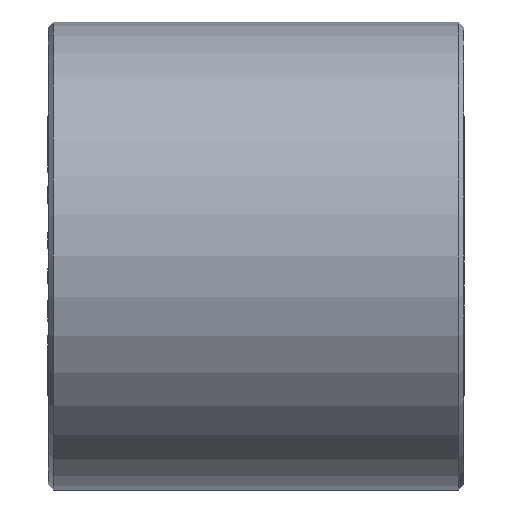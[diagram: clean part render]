
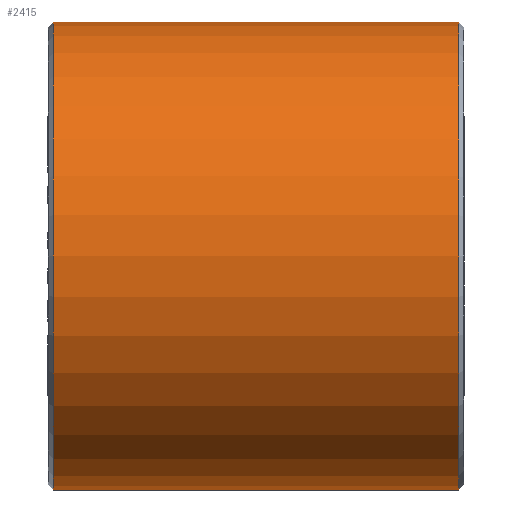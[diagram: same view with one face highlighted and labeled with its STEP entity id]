
A CAD part, front view. The second image highlights one B-rep face of the part: STEP entity #2415.
In plain terms, the highlighted cylindrical face has radius 22.5 mm (diameter 45 mm), a partial arc.
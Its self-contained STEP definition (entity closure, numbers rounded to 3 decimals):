
#86=DIRECTION('',(1.,0.,0.));
#87=VECTOR('',#86,39.);
#88=CARTESIAN_POINT('',(-19.5,0.,
-22.5));
#89=LINE('',#88,#87);
#133=CARTESIAN_POINT('',(19.5,0.,0.));
#134=DIRECTION('',(1.,0.,0.));
#135=DIRECTION('',(0.,0.,1.));
#136=AXIS2_PLACEMENT_3D('',#133,#134,#135);
#138=CARTESIAN_POINT('',(-19.5,0.,0.));
#139=DIRECTION('',(-1.,0.,0.));
#140=DIRECTION('',(0.,0.,-1.));
#141=AXIS2_PLACEMENT_3D('',#138,#139,#140);
#143=DIRECTION('',(1.,0.,0.));
#144=VECTOR('',#143,39.);
#145=CARTESIAN_POINT('',(-19.5,0.,
22.5));
#146=LINE('',#145,#144);
#2282=CARTESIAN_POINT('',(19.5,0.,22.5));
#2283=CARTESIAN_POINT('',(19.5,0.,-22.5));
#2284=VERTEX_POINT('',#2282);
#2285=VERTEX_POINT('',#2283);
#2290=CARTESIAN_POINT('',(-19.5,0.,-22.5));
#2291=CARTESIAN_POINT('',(-19.5,0.,22.5));
#2292=VERTEX_POINT('',#2290);
#2293=VERTEX_POINT('',#2291);
#2404=CARTESIAN_POINT('',(-20.,0.,0.));
#2405=DIRECTION('',(1.,0.,0.));
#2406=DIRECTION('',(0.,0.,-1.));
#2407=AXIS2_PLACEMENT_3D('',#2404,#2405,#2406);
#2408=CYLINDRICAL_SURFACE('',#2407,22.5);
#2409=ORIENTED_EDGE('',*,*,#2398,.T.);
#2410=ORIENTED_EDGE('',*,*,#2352,.F.);
#2411=ORIENTED_EDGE('',*,*,#2322,.T.);
#2412=ORIENTED_EDGE('',*,*,#2349,.T.);
#2413=EDGE_LOOP('',(#2409,#2410,#2411,#2412));
#2414=FACE_OUTER_BOUND('',#2413,.F.);
#2415=ADVANCED_FACE('',(#2414),#2408,.T.);
#137=CIRCLE('',#136,22.5);
#142=CIRCLE('',#141,22.5);
#2322=EDGE_CURVE('',#2292,#2293,#142,.T.);
#2349=EDGE_CURVE('',#2293,#2284,#146,.T.);
#2352=EDGE_CURVE('',#2292,#2285,#89,.T.);
#2398=EDGE_CURVE('',#2284,#2285,#137,.T.);
